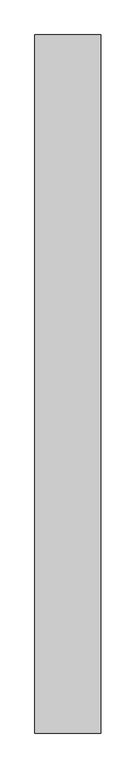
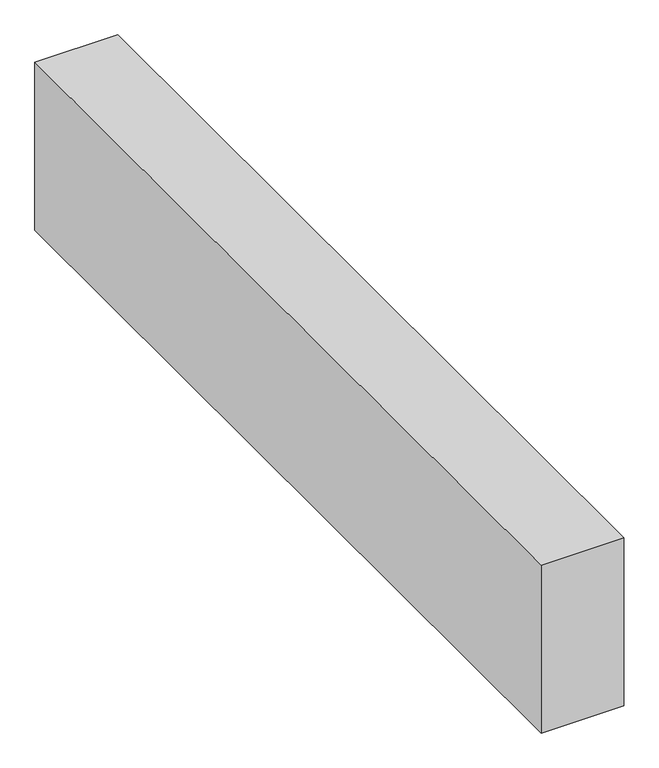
"""IFC4 building model written with IfcOpenShell, lengths in millimetres: proxy geometry."""

from ifc_helpers import new_model, si_unit, frame, origin, place, context, project, spatial, polyline, outline, extrude, source, transform, mapped, element, save


def structural_framing_d0034127(model_context):
    return source(origin(), model_context, "Body", "SweptSolid", [
        extrude(outline(polyline([(70.0, -741.2), (-70.0, -741.2), (-70.0, 741.2), (70.0, 741.2), (70.0, -741.2)])), frame((0.0, 0.0, -300.0), z_axis=(0.0, 0.0, 1.0), x_axis=(1.0, 0.0, 0.0)), (0.0, 0.0, 1.0), 300.0),
    ])


if __name__ == "__main__":
    model = new_model("IFC4")
    model_context = context("Model", 3, world=origin())
    ifc_project = project(units=[si_unit("LENGTHUNIT", "METRE", prefix="MILLI")], contexts=[model_context])
    site = spatial("IfcSite", under=ifc_project)
    building = spatial("IfcBuilding", under=site)
    placement = place(None, origin())
    structural_framing_shape = structural_framing_d0034127(model_context)
    element("IfcBuildingElementProxy", 1, Name="Structural Framing", at=placement, inside=building, context=model_context, shape_type="MappedRepresentation", body=[
        mapped(structural_framing_shape, transform((0.0, 0.0, 0.0), x_axis=(1.0, 0.0, 0.0), y_axis=(0.0, 1.0, 0.0), z_axis=(0.0, 0.0, 1.0))),
    ])
    save(model, "model.ifc")
